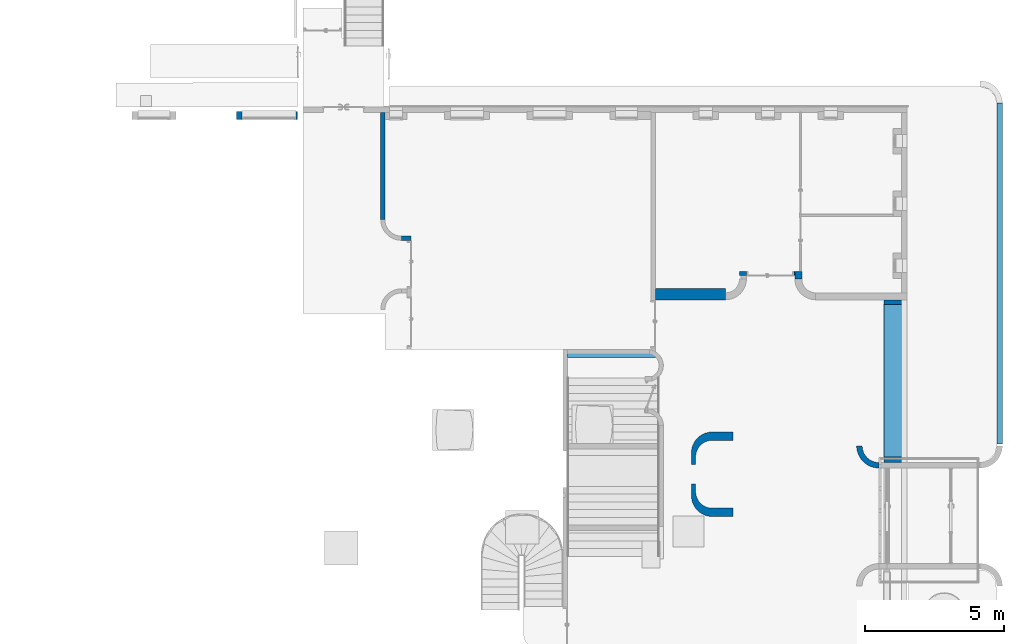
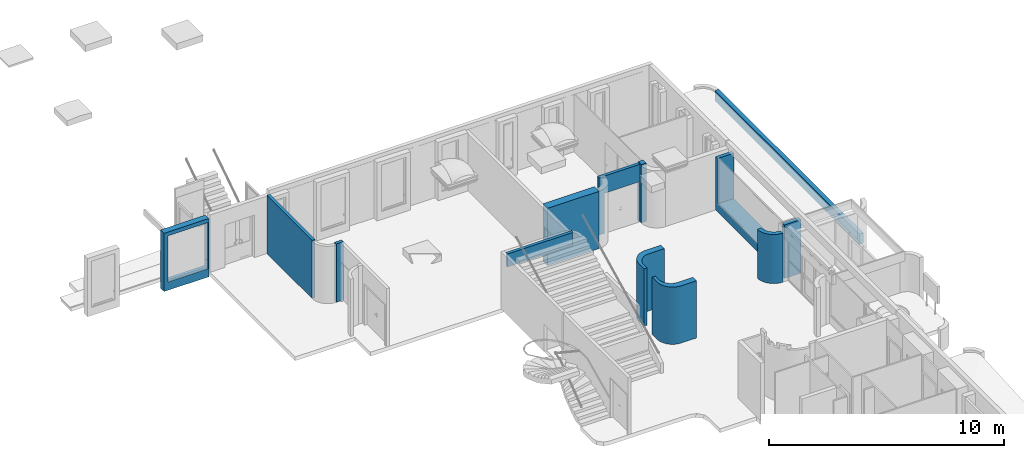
# One storey, part 2 of 10: 11 walls, 3 openings.
"""IFC2X3 building model written with IfcOpenShell, lengths in metres."""

from ifc_helpers import new_model, entity, si_unit, converted_unit, derived_unit, direction, frame, frame_2d, origin, place, context, subcontext, project, spatial, polyline, circle_curve, parameter, trimmed, segment, composite_curve, rectangle, outline, extrude, clip, bounded_halfspace, material, layer, layer_set, layer_usage, type_object, element, save


model = new_model("IFC2X3")

# Units and contexts
model_context = context("Model", 3, precision=1e-05, world=origin(), true_north=direction((6.12303176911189e-17, 1.0)))
body_context = subcontext(model_context, "Body", "Model", "MODEL_VIEW")
ifc_project = project(units=[si_unit("LENGTHUNIT", "METRE"), si_unit("AREAUNIT", "SQUARE_METRE"), si_unit("VOLUMEUNIT", "CUBIC_METRE"), converted_unit("PLANEANGLEUNIT", "DEGREE", entity("IfcRatioMeasure", 0.0174532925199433), si_unit("PLANEANGLEUNIT", "RADIAN"), dimensions=[0, 0, 0, 0, 0, 0, 0]), si_unit("MASSUNIT", "GRAM", prefix="KILO"), derived_unit("MASSDENSITYUNIT", [(si_unit("MASSUNIT", "GRAM", prefix="KILO"), 1), (si_unit("LENGTHUNIT", "METRE"), -3)]), derived_unit("MOMENTOFINERTIAUNIT", [(si_unit("LENGTHUNIT", "METRE"), 4)]), si_unit("TIMEUNIT", "SECOND"), si_unit("FREQUENCYUNIT", "HERTZ"), si_unit("THERMODYNAMICTEMPERATUREUNIT", "DEGREE_CELSIUS"), derived_unit("THERMALTRANSMITTANCEUNIT", [(si_unit("MASSUNIT", "GRAM", prefix="KILO"), 1), (si_unit("THERMODYNAMICTEMPERATUREUNIT", "KELVIN"), -1), (si_unit("TIMEUNIT", "SECOND"), -3)]), derived_unit("VOLUMETRICFLOWRATEUNIT", [(si_unit("LENGTHUNIT", "METRE"), 3), (si_unit("TIMEUNIT", "SECOND"), -1)]), si_unit("ELECTRICCURRENTUNIT", "AMPERE"), si_unit("ELECTRICVOLTAGEUNIT", "VOLT"), si_unit("POWERUNIT", "WATT"), si_unit("FORCEUNIT", "NEWTON", prefix="KILO"), si_unit("ILLUMINANCEUNIT", "LUX"), si_unit("LUMINOUSFLUXUNIT", "LUMEN"), si_unit("LUMINOUSINTENSITYUNIT", "CANDELA"), derived_unit("USERDEFINED", [(si_unit("MASSUNIT", "GRAM", prefix="KILO"), -1), (si_unit("LENGTHUNIT", "METRE"), -2), (si_unit("TIMEUNIT", "SECOND"), 3), (si_unit("LUMINOUSFLUXUNIT", "LUMEN"), 1)]), derived_unit("LINEARVELOCITYUNIT", [(si_unit("LENGTHUNIT", "METRE"), 1), (si_unit("TIMEUNIT", "SECOND"), -1)]), si_unit("PRESSUREUNIT", "PASCAL"), derived_unit("USERDEFINED", [(si_unit("LENGTHUNIT", "METRE"), -2), (si_unit("MASSUNIT", "GRAM", prefix="KILO"), 1), (si_unit("TIMEUNIT", "SECOND"), -2)]), derived_unit("LINEARFORCEUNIT", [(si_unit("MASSUNIT", "GRAM", prefix="KILO"), 1), (si_unit("LENGTHUNIT", "METRE"), 1), (si_unit("TIMEUNIT", "SECOND"), -2), (si_unit("LENGTHUNIT", "METRE"), -1)]), derived_unit("PLANARFORCEUNIT", [(si_unit("MASSUNIT", "GRAM", prefix="KILO"), 1), (si_unit("LENGTHUNIT", "METRE"), 1), (si_unit("TIMEUNIT", "SECOND"), -2), (si_unit("LENGTHUNIT", "METRE"), -2)])], contexts=[model_context])

# Site, building, storey
site_placement = place(None, origin())
site = spatial("IfcSite", under=ifc_project, at=site_placement, Name="Default", CompositionType="ELEMENT")
building_placement = place(site_placement, origin())
building = spatial("IfcBuilding", under=site, at=building_placement, CompositionType="ELEMENT")
storey_placement = place(building_placement, frame((0.0, 0.0, 0.893308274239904)))
storey = spatial("IfcBuildingStorey", under=building, at=storey_placement, Name="Niveau 00 - 02", CompositionType="ELEMENT", Elevation=0.893308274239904)

# Walls
ifc_material_1 = material(Name="Maçonnerie - Voile BA")
ifc_layer_1 = layer(ifc_material_1, 0.25)
ifc_layer_set_1 = layer_set([ifc_layer_1], Name="Mur de base:Ext. Voile BA 250")
ifc_layer_usage_1 = layer_usage(ifc_layer_set_1, "AXIS2", "NEGATIVE", 0.125)
wall_type_1 = type_object("IfcWallType", Name="Mur de base:Ext. Voile BA 250", PredefinedType="STANDARD", material=ifc_layer_set_1)
wall_1_placement = place(storey_placement, frame((-0.874717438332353, 4.83854480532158, 0.0), z_axis=(0.0, 0.0, 1.0), x_axis=(0.0, -1.0, 0.0)))
element("IfcWallStandardCase", 1, at=wall_1_placement, inside=storey, type_object=wall_type_1, material=ifc_layer_usage_1, Name="Mur de base:Ext. Voile BA 250", ObjectType="Mur de base:Ext. Voile BA 250", context=body_context, shape_type="SweptSolid", body=[
    extrude(rectangle(XDim=0.267659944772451, YDim=0.25, at=frame_2d((0.133829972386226, 2.77555756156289e-17), x_axis=(-1.0, 0.0))), origin(), (0.0, 0.0, 1.0), 3.02856448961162),
])
ifc_material_2 = material(Name="Finition vertical béton")
ifc_layer_2 = layer(ifc_material_2, 0.03)
ifc_layer_3 = layer(ifc_material_1, 0.17)
ifc_layer_set_2 = layer_set([ifc_layer_2, ifc_layer_3], Name="Mur de base:Mur EXE 200- Hach")
ifc_layer_usage_2 = layer_usage(ifc_layer_set_2, "AXIS2", "POSITIVE", -0.1)
wall_type_2 = type_object("IfcWallType", Name="Mur de base:Mur EXE 200- Hach", PredefinedType="STANDARD", material=ifc_layer_set_2)
wall_2_placement = place(storey_placement, frame((6.38433498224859, -1.38768046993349, -0.05), z_axis=(0.0, 0.0, 1.0), x_axis=(0.0, 1.0, 0.0)))
element("IfcWallStandardCase", 2, at=wall_2_placement, inside=storey, type_object=wall_type_2, material=ifc_layer_usage_2, Name="Mur de base:Mur EXE 200- Hach", ObjectType="Mur de base:Mur EXE 200- Hach", context=body_context, shape_type="SweptSolid", body=[
    extrude(outline(polyline([(12.3169793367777, -0.1), (12.315044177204, 0.0999999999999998), (0.0, 0.1), (0.0, -0.1), (12.3169793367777, -0.1)])), origin(), (0.0, 0.0, 1.0), 0.529747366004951),
])

# Wall, opening
ifc_layer_4 = layer(ifc_material_1, 0.3)
ifc_layer_set_3 = layer_set([ifc_layer_4], Name="Mur de base:Ext. Voile BA 300")
ifc_layer_usage_3 = layer_usage(ifc_layer_set_3, "AXIS2", "NEGATIVE", 0.15)
wall_type_3 = type_object("IfcWallType", Name="Mur de base:Ext. Voile BA 300", PredefinedType="STANDARD", material=ifc_layer_set_3)
wall_3_placement = place(storey_placement, frame((-18.9440938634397, 10.4708848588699, 0.0), z_axis=(0.0, 0.0, 1.0), x_axis=(-1.0, 0.0, 0.0)))
wall_3 = element("IfcWallStandardCase", 3, at=wall_3_placement, inside=storey, type_object=wall_type_3, material=ifc_layer_usage_3, Name="Mur de base:Ext. Voile BA 300", ObjectType="Mur de base:Ext. Voile BA 300", context=body_context, shape_type="SweptSolid", body=[
    extrude(rectangle(XDim=2.20125727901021, YDim=0.300000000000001, at=frame_2d((1.1006286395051, 8.32667268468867e-17), x_axis=(-1.0, 0.0))), origin(), (0.0, 0.0, 1.0), 3.02856448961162),
])
opening_1_placement = place(wall_3_placement, frame((2.0, 0.149999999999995, 0.43)))
element("IfcOpeningElement", 4, at=opening_1_placement, cuts=wall_3, Name="Fenêtre type 1:195 x 240 cm:1", ObjectType="Opening", context=body_context, shape_type="SweptSolid", body=[
    extrude(rectangle(XDim=2.4, YDim=1.95, at=frame_2d((1.2, 0.975), x_axis=(1.0, 0.0))), frame((0.0, 0.0, 0.0), z_axis=(0.0, -1.0, 0.0), x_axis=(0.0, 0.0, 1.0)), (0.0, 0.0, 1.0), 0.3),
])

# Walls
ifc_layer_5 = layer(ifc_material_1, 0.4)
ifc_layer_set_4 = layer_set([ifc_layer_5], Name="Mur de base:Ext. Voile BA 400")
ifc_layer_usage_4 = layer_usage(ifc_layer_set_4, "AXIS2", "POSITIVE", -0.2)
wall_type_4 = type_object("IfcWallType", Name="Mur de base:Ext. Voile BA 400", PredefinedType="STANDARD", material=ifc_layer_set_4)
wall_4_placement = place(storey_placement, frame((-6.03802269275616, 4.02088486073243, 0.0)))
element("IfcWallStandardCase", 5, at=wall_4_placement, inside=storey, type_object=wall_type_4, material=ifc_layer_usage_4, Name="Mur de base:Ext. Voile BA 400", ObjectType="Mur de base:Ext. Voile BA 400", context=body_context, shape_type="Clipping", body=[
    clip(extrude(rectangle(XDim=2.53830525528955, YDim=0.4, at=frame_2d((1.26915262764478, -2.77555756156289e-17), x_axis=(-1.0, 0.0))), origin(), (0.0, 0.0, 1.0), 2.97856448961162), bounded_halfspace(frame((0.0, -0.2, 2.97856448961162), z_axis=(0.0, 0.0, -1.0), x_axis=(0.0, 1.0, 0.0)), True, frame((0.0, -0.2, 2.97856448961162)), polyline([(0.0, 0.0), (2.34403351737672, 0.0), (2.41403351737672, 0.0), (2.53830525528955, 0.0), (2.53830525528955, 0.249999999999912), (2.53830525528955, 0.4), (0.0, 0.4), (0.0, 0.0)]))),
])
ifc_layer_6 = layer(ifc_material_1, 0.15)
ifc_layer_set_5 = layer_set([ifc_layer_6], Name="Mur de base:Ext. Voile BA 150")
ifc_layer_usage_5 = layer_usage(ifc_layer_set_5, "AXIS2", "NEGATIVE", 0.075)
wall_type_5 = type_object("IfcWallType", Name="Mur de base:Ext. Voile BA 150", PredefinedType="STANDARD", material=ifc_layer_set_5)
wall_5_placement = place(storey_placement, frame((-15.8689891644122, 10.5808848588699, 0.0), z_axis=(0.0, 0.0, 1.0), x_axis=(0.0, -1.0, 0.0)))
element("IfcWallStandardCase", 6, at=wall_5_placement, inside=storey, type_object=wall_type_5, material=ifc_layer_usage_5, Name="Mur de base:Ext. Voile BA 150", ObjectType="Mur de base:Ext. Voile BA 150", context=body_context, shape_type="SweptSolid", body=[
    extrude(rectangle(XDim=3.86518525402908, YDim=0.150000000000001, at=frame_2d((1.93259262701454, -4.44089209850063e-16), x_axis=(-1.0, 0.0))), origin(), (0.0, 0.0, 1.0), 3.02856448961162),
])
ifc_layer_usage_6 = layer_usage(ifc_layer_set_5, "AXIS2", "NEGATIVE", 0.075)
wall_6_placement = place(storey_placement, frame((-14.8447120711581, 6.04069960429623, 0.0), z_axis=(0.0, 0.0, 1.0), x_axis=(-1.0, 0.0, 0.0)))
element("IfcWallStandardCase", 7, at=wall_6_placement, inside=storey, type_object=wall_type_5, material=ifc_layer_usage_6, Name="Mur de base:Ext. Voile BA 150", ObjectType="Mur de base:Ext. Voile BA 150", context=body_context, shape_type="SweptSolid", body=[
    extrude(rectangle(XDim=0.349277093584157, YDim=0.150000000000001, at=frame_2d((0.174638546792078, 1.66533453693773e-16), x_axis=(-1.0, 0.0))), origin(), (0.0, 0.0, 1.0), 3.02856448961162),
])

# Wall, opening
ifc_layer_usage_7 = layer_usage(ifc_layer_set_5, "AXIS2", "NEGATIVE", 0.075)
wall_7_placement = place(storey_placement, frame((-0.99971743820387, 4.76354480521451, 0.0), z_axis=(0.0, 0.0, 1.0), x_axis=(-1.0, 0.0, 0.0)))
wall_7 = element("IfcWallStandardCase", 8, at=wall_7_placement, inside=storey, type_object=wall_type_5, material=ifc_layer_usage_7, Name="Mur de base:Ext. Voile BA 150", ObjectType="Mur de base:Ext. Voile BA 150", context=body_context, shape_type="Clipping", body=[
    clip(extrude(rectangle(XDim=2.00809339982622, YDim=0.149999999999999, at=frame_2d((1.00404669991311, -7.63278329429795e-17), x_axis=(-1.0, 0.0))), origin(), (0.0, 0.0, 1.0), 2.97856448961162), bounded_halfspace(frame((0.0, -0.0750000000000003, 2.97856448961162), z_axis=(0.0, 0.0, -1.0), x_axis=(0.0, -1.0, 0.0)), True, frame((0.0, -0.0750000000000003, 2.97856448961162)), polyline([(0.0, 0.0), (2.00809339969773, 0.0), (2.00809339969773, 0.15), (0.0, 0.15), (0.0, 0.0)]))),
])
opening_2_placement = place(wall_7_placement, frame((0.0396292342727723, -0.0749999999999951, 0.0)))
element("IfcOpeningElement", 9, at=opening_2_placement, cuts=wall_7, Name="Double (R):1.63m x 2.04m:1", ObjectType="Opening", context=body_context, shape_type="SweptSolid", body=[
    extrude(rectangle(XDim=2.075, YDim=1.7, at=frame_2d((1.0375, 0.849999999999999), x_axis=(1.0, 0.0))), frame((0.0, 0.0, 0.0), z_axis=(0.0, 1.0, 0.0), x_axis=(0.0, 0.0, 1.0)), (0.0, 0.0, 1.0), 0.15),
])

# Walls
ifc_layer_usage_8 = layer_usage(ifc_layer_set_5, "AXIS2", "NEGATIVE", 0.075)
wall_8_placement = place(storey_placement, frame((-9.21398916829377, 1.81149969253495, 2.30191613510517)))
element("IfcWallStandardCase", 10, at=wall_8_placement, inside=storey, type_object=wall_type_5, material=ifc_layer_usage_8, Name="Mur de base:Ext. Voile BA 150", ObjectType="Mur de base:Ext. Voile BA 150", context=body_context, shape_type="Clipping", body=[
    clip(extrude(outline(polyline([(3.20419512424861, -0.0750000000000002), (3.26469599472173, 0.075), (2.95875862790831, 0.075), (0.0, 0.0749999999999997), (0.0, -0.075), (3.20419512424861, -0.0750000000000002)])), origin(), (0.0, 0.0, 1.0), 0.676648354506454), bounded_halfspace(frame((0.0, -0.075, 0.676648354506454), z_axis=(0.0, 0.0, -1.0), x_axis=(0.0, 1.0, 0.0)), True, frame((0.0, -0.075, 0.676648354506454)), polyline([(0.0, 0.0), (3.20419512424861, 0.0), (3.26469599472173, 0.15), (2.95875862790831, 0.15), (0.0, 0.15), (0.0, 0.0)]))),
])
ifc_material_3 = material(Name="FP - Peinture bleu")
ifc_layer_7 = layer(ifc_material_3, 0.2)
ifc_layer_set_6 = layer_set([ifc_layer_7], Name="Mur de base:Ext. Voile BA 200 bleu")
ifc_layer_usage_9 = layer_usage(ifc_layer_set_6, "AXIS2", "NEGATIVE", 0.1)
wall_type_6 = type_object("IfcWallType", Name="Mur de base:Ext. Voile BA 200 bleu", PredefinedType="STANDARD", material=ifc_layer_set_6)
wall_9_placement = place(storey_placement, frame((1.32746826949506, -1.44962773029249, 0.0), z_axis=(0.0, 0.0, 1.0), x_axis=(0.0, 1.0, 0.0)))
element("IfcWallStandardCase", 11, at=wall_9_placement, inside=storey, type_object=wall_type_6, material=ifc_layer_usage_9, Name="Mur de base:Ext. Voile BA 200 bleu", ObjectType="Mur de base:Ext. Voile BA 200 bleu", context=body_context, shape_type="SweptSolid", body=[
    extrude(outline(composite_curve([segment(trimmed(circle_curve(frame_2d((0.0, -0.70000000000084), x_axis=(1.0, 0.0)), 0.60000000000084), [parameter(90.0000000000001)], [parameter(180.0)], True, "PARAMETER"), False, "CONTINUOUS"), segment(polyline([(0.0, -0.1), (0.0, 0.1)]), True, "CONTINUOUS"), segment(trimmed(circle_curve(frame_2d((0.0, -0.70000000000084), x_axis=(1.0, 0.0)), 0.80000000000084), [parameter(90.0000000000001)], [parameter(180.0)], True, "PARAMETER"), True, "CONTINUOUS"), segment(polyline([(-0.800000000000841, -0.700000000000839), (-0.600000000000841, -0.700000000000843)]), True, "CONTINUOUS")], self_intersect=False)), origin(), (0.0, 0.0, 1.0), 2.55),
])

# Wall, opening
ifc_layer_8 = layer(ifc_material_2, 0.8)
ifc_layer_set_7 = layer_set([ifc_layer_8], Name="Mur de base:Mur EXE 800- Hach 2 faces")
ifc_layer_usage_10 = layer_usage(ifc_layer_set_7, "AXIS2", "NEGATIVE", 0.4)
wall_type_7 = type_object("IfcWallType", Name="Mur de base:Mur EXE 800- Hach 2 faces", PredefinedType="STANDARD", material=ifc_layer_set_7)
wall_10_placement = place(storey_placement, frame((2.62032838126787, -2.04962539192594, 0.0), z_axis=(0.0, 0.0, 1.0), x_axis=(0.0, 1.0, 0.0)))
wall_10 = element("IfcWallStandardCase", 12, at=wall_10_placement, inside=storey, type_object=wall_type_7, material=ifc_layer_usage_10, Name="Mur de base:Mur EXE 800- Hach 2 faces", ObjectType="Mur de base:Mur EXE 800- Hach 2 faces", context=body_context, shape_type="Clipping", body=[
    clip(extrude(rectangle(XDim=5.87051025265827, YDim=0.8, at=frame_2d((2.93525512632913, -5.55111512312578e-17), x_axis=(-1.0, 0.0))), origin(), (0.0, 0.0, 1.0), 2.78), bounded_halfspace(frame((0.0, 0.4, 2.78), z_axis=(0.0, 0.0, -1.0), x_axis=(-1.0, 0.0, 0.0)), True, frame((0.0, 0.4, 2.78)), polyline([(0.0, 0.0), (0.0, -0.62713988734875), (0.205510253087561, -0.62713988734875), (0.205510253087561, 0.0), (0.0, 0.0)]))),
])
opening_3_placement = place(wall_10_placement, frame((5.70551025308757, 0.39999999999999, 0.42)))
element("IfcOpeningElement", 13, at=opening_3_placement, cuts=wall_10, Name="Fenêtre type 1:550 x 245 cm:1", ObjectType="Opening", context=body_context, shape_type="SweptSolid", body=[
    extrude(rectangle(XDim=2.4, YDim=5.5, at=frame_2d((1.2, 2.75), x_axis=(1.0, 0.0))), frame((0.0, 0.0, 0.0), z_axis=(0.0, -1.0, 0.0), x_axis=(0.0, 0.0, 1.0)), (0.0, 0.0, 1.0), 0.8),
])

# Wall
ifc_material_4 = material(Name="Mur par défaut")
wall_type_8 = type_object("IfcWallType", Name="Murs 1:Murs 1", PredefinedType="NOTDEFINED", material=ifc_material_4)
wall_11_placement = place(storey_placement, frame((-4.732544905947, -4.00065666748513, 0.0), z_axis=(0.0, 0.0, 1.0), x_axis=(0.0, 1.0, 0.0)))
element("IfcWall", 14, at=wall_11_placement, inside=storey, type_object=wall_type_8, material=ifc_material_4, Name="Murs 1:Murs 1", ObjectType="Murs 1:Murs 1", context=body_context, shape_type="SweptSolid", body=[
    extrude(outline(composite_curve([segment(polyline([(-0.275000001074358, 0.148613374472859), (-0.275000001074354, 0.904159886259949)]), True, "CONTINUOUS"), segment(polyline([(-0.275000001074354, 0.904159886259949), (-0.575000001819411, 0.90415988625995)]), True, "CONTINUOUS"), segment(polyline([(-0.575000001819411, 0.90415988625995), (-0.575000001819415, 0.148613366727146)]), True, "CONTINUOUS"), segment(trimmed(circle_curve(frame_2d((0.174999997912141, 0.148613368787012), x_axis=(1.0, 0.0)), 0.749999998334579), [parameter(180.000000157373)], [parameter(270.0)], True, "PARAMETER"), True, "CONTINUOUS"), segment(polyline([(0.174999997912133, -0.601386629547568), (0.600000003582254, -0.601386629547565)]), True, "CONTINUOUS"), segment(polyline([(0.600000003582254, -0.601386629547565), (0.600000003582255, -0.451386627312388)]), True, "CONTINUOUS"), segment(polyline([(0.600000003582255, -0.451386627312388), (0.325000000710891, -0.451386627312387)]), True, "CONTINUOUS"), segment(trimmed(circle_curve(frame_2d((0.325000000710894, 0.14861337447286), x_axis=(1.0, 0.0)), 0.600000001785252), [parameter(180.0)], [parameter(269.999999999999)], True, "PARAMETER"), False, "CONTINUOUS")], self_intersect=False)), frame((0.575000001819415, -0.601386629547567, 0.0), z_axis=(0.0, 0.0, -1.0), x_axis=(1.0, 0.0, 0.0)), (0.0, 0.0, -1.0), 2.97856448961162),
    extrude(outline(composite_curve([segment(polyline([(0.275000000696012, -0.904159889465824), (0.575000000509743, -0.904159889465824)]), True, "CONTINUOUS"), segment(polyline([(0.575000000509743, -0.904159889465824), (0.575000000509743, -0.148613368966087)]), True, "CONTINUOUS"), segment(trimmed(circle_curve(frame_2d((-0.17499999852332, -0.148613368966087), x_axis=(1.0, 0.0)), 0.749999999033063), [parameter(2.54444374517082e-13)], [parameter(90.0000000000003)], True, "PARAMETER"), True, "CONTINUOUS"), segment(polyline([(-0.17499999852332, 0.601386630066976), (-0.6000000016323, 0.601386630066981)]), True, "CONTINUOUS"), segment(polyline([(-0.6000000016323, 0.601386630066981), (-0.6000000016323, 0.451386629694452)]), True, "CONTINUOUS"), segment(polyline([(-0.6000000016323, 0.451386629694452), (-0.325000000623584, 0.451386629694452)]), True, "CONTINUOUS"), segment(trimmed(circle_curve(frame_2d((-0.32500000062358, -0.148613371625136), x_axis=(1.0, 0.0)), 0.600000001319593), [parameter(6.10666498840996e-13)], [parameter(90.0000000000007)], True, "PARAMETER"), False, "CONTINUOUS"), segment(polyline([(0.275000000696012, -0.148613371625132), (0.275000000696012, -0.904159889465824)]), True, "CONTINUOUS")], self_intersect=False)), frame((2.47500000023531, -0.601386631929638, 0.0)), (0.0, 0.0, 1.0), 2.97856448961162),
])

save(model, "model.ifc")
